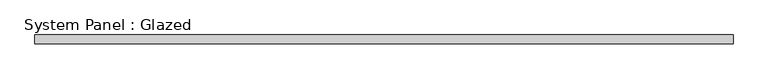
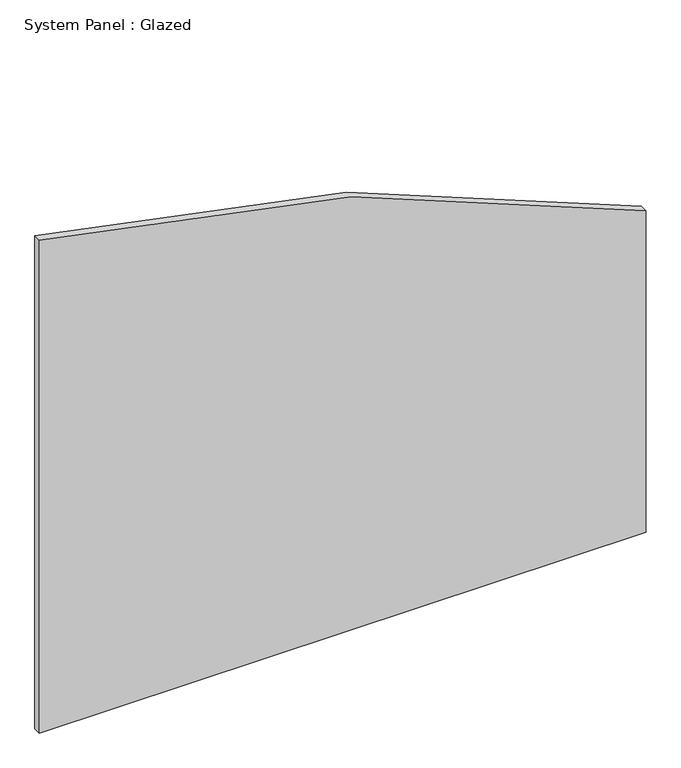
"""IFC4 building model written with IfcOpenShell, lengths in millimetres: plate geometry, System Panel : Glazed."""

from ifc_helpers import new_model, si_unit, point, frame, frame_2d, origin, place, context, project, spatial, polyline, circle_curve, trimmed, segment, composite_curve, outline, extrude, source, transform, mapped, element, save


def system_panel_glazed_735f8dc3(model_context):
    return source(origin(), model_context, "Body", "SweptSolid", [
        extrude(outline(composite_curve([segment(polyline([(0.0, -1000.0), (0.0, 1000.0), (1119.6363668, 1000.0)]), True, "CONTINUOUS"), segment(trimmed(circle_curve(frame_2d((-4026.3064524, -1625.0)), 5776.7943099), [point((1119.6363668, 1000.0))], [point((1716.5784932, -1000.0))], False, "CARTESIAN"), True, "CONTINUOUS"), segment(polyline([(1716.5784932, -1000.0), (0.0, -1000.0)]), True, "CONTINUOUS")], self_intersect=False)), frame((0.0, 24.5, 0.0), z_axis=(0.0, 1.0, 0.0), x_axis=(0.0, 0.0, 1.0)), (0.0, 0.0, 1.0), 25.0),
    ])


if __name__ == "__main__":
    model = new_model("IFC4")
    model_context = context("Model", 3, world=origin())
    ifc_project = project(units=[si_unit("LENGTHUNIT", "METRE", prefix="MILLI")], contexts=[model_context])
    site = spatial("IfcSite", under=ifc_project)
    building = spatial("IfcBuilding", under=site)
    placement = place(None, origin())
    system_panel_glazed_shape = system_panel_glazed_735f8dc3(model_context)
    element("IfcPlate", 1, ObjectType="System Panel : Glazed", at=placement, inside=building, context=model_context, shape_type="MappedRepresentation", body=[
        mapped(system_panel_glazed_shape, transform((0.0, 0.0, 0.0), x_axis=(1.0, 0.0, 0.0), y_axis=(0.0, 1.0, 0.0), z_axis=(0.0, 0.0, 1.0))),
    ])
    save(model, "model.ifc")
